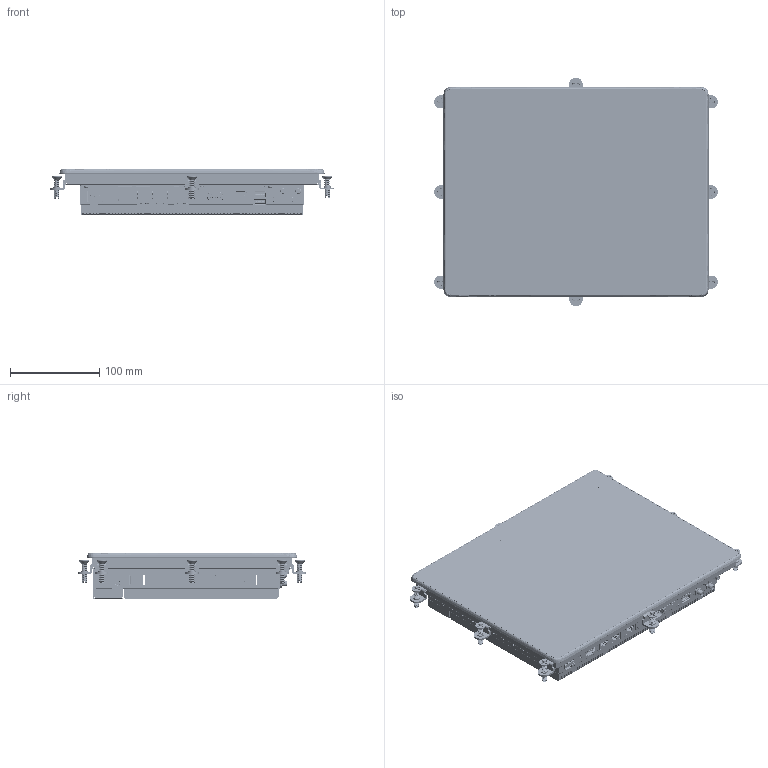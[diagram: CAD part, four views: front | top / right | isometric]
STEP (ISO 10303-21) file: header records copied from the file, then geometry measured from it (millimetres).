
FILE_DESCRIPTION((''),'2;1');
FILE_NAME('NP6A-121','2026-06-02T11:13:59',('gijyu181'),(''),'CREO PARAMETRIC BY PTC INC, 2018050','CREO PARAMETRIC BY PTC INC, 2018050','');
FILE_SCHEMA(('CONFIG_CONTROL_DESIGN','SHAPE_APPEARANCE_LAYERS_GROUPS'));
Products named in the file (1): NP6A-121
Bounding box: 317.6 x 256.1 x 50.9 mm (x, y, z)
Volume: 1251883.4 mm3; surface area: 905917.1 mm2
Topology: 16 solids, 97 shells, 34119 faces, 100460 edges, 66348 vertices
Faces by surface type: plane 23220, cylinder 8260, extrusion 1476, cone 517, bspline 392, torus 138, sphere 112, revolution 4
Entity records: 1336210 total; most frequent: CARTESIAN_POINT 292232, ORIENTED_EDGE 200019, DIRECTION 177001, EDGE_CURVE 100406, VECTOR 79319, LINE 77843, VERTEX_POINT 66349, AXIS2_PLACEMENT_3D 48839
